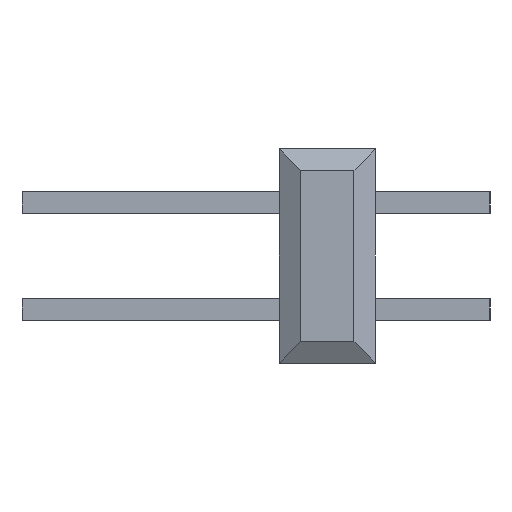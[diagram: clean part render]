
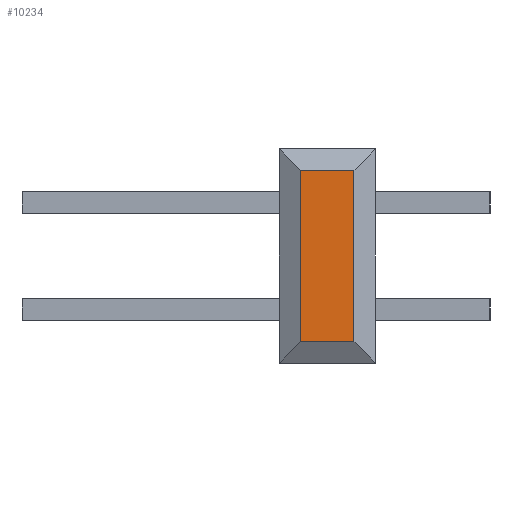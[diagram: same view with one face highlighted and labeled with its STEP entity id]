
A CAD part, left-side view. The second image highlights one B-rep face of the part: STEP entity #10234.
In plain terms, the highlighted planar face has unit normal (-1, 0, 0).
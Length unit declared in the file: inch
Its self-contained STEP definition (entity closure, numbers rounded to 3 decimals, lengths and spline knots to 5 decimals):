
#3421=DIRECTION('',(0.,1.,0.));
#3422=VECTOR('',#3421,0.05);
#3423=CARTESIAN_POINT('',(-0.6,-0.025,0.08));
#3424=LINE('',#3423,#3422);
#3425=DIRECTION('',(0.,0.,1.));
#3426=VECTOR('',#3425,0.16);
#3427=CARTESIAN_POINT('',(-0.6,0.025,-0.08));
#3428=LINE('',#3427,#3426);
#3429=DIRECTION('',(0.,0.,-1.));
#3430=VECTOR('',#3429,0.16);
#3431=CARTESIAN_POINT('',(-0.6,-0.025,0.08));
#3432=LINE('',#3431,#3430);
#3433=DIRECTION('',(0.,1.,0.));
#3434=VECTOR('',#3433,0.05);
#3435=CARTESIAN_POINT('',(-0.6,-0.025,-0.08));
#3436=LINE('',#3435,#3434);
#4522=CARTESIAN_POINT('',(-0.6,0.025,0.08));
#4524=VERTEX_POINT('',#4522);
#4525=CARTESIAN_POINT('',(-0.6,0.025,-0.08));
#4526=VERTEX_POINT('',#4525);
#4530=CARTESIAN_POINT('',(-0.6,-0.025,-0.08));
#4532=VERTEX_POINT('',#4530);
#4533=CARTESIAN_POINT('',(-0.6,-0.025,0.08));
#4534=VERTEX_POINT('',#4533);
#10221=CARTESIAN_POINT('',(-0.6,-0.045,-0.08));
#10222=DIRECTION('',(-1.,0.,0.));
#10223=DIRECTION('',(0.,0.,1.));
#10224=AXIS2_PLACEMENT_3D('',#10221,#10222,#10223);
#10225=PLANE('',#10224);
#10226=ORIENTED_EDGE('',*,*,#10213,.T.);
#10227=ORIENTED_EDGE('',*,*,#10202,.F.);
#10229=ORIENTED_EDGE('',*,*,#10228,.T.);
#10231=ORIENTED_EDGE('',*,*,#10230,.T.);
#10232=EDGE_LOOP('',(#10226,#10227,#10229,#10231));
#10233=FACE_OUTER_BOUND('',#10232,.F.);
#10234=ADVANCED_FACE('',(#10233),#10225,.T.);
#10202=EDGE_CURVE('',#4534,#4524,#3424,.T.);
#10213=EDGE_CURVE('',#4526,#4524,#3428,.T.);
#10228=EDGE_CURVE('',#4534,#4532,#3432,.T.);
#10230=EDGE_CURVE('',#4532,#4526,#3436,.T.);
